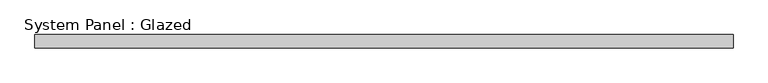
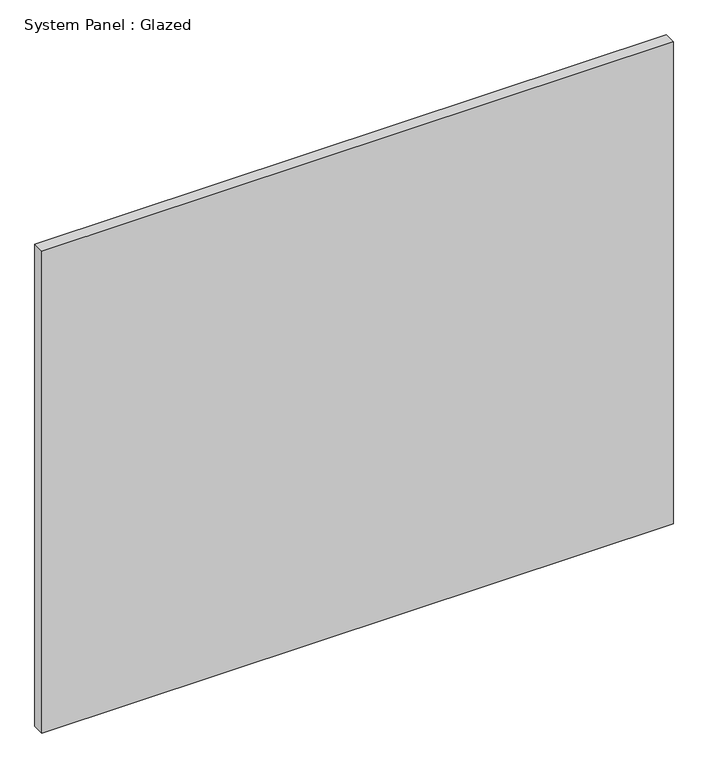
"""IFC4 building model written with IfcOpenShell, lengths in millimetres: plate geometry, System Panel : Glazed."""

from ifc_helpers import new_model, si_unit, origin, origin_with_axes, place, context, project, spatial, polyline, outline, extrude, source, transform, mapped, element, save


def system_panel_glazed_390bf5ad(model_context):
    return source(origin(), model_context, "Body", "SweptSolid", [
        extrude(outline(polyline([(643.7499999, 24.5), (-643.7499999, 24.5), (-643.7499999, 49.5), (643.7499999, 49.5), (643.7499999, 24.5)])), origin_with_axes(), (0.0, 0.0, 1.0), 1038.7564813),
    ])


if __name__ == "__main__":
    model = new_model("IFC4")
    model_context = context("Model", 3, world=origin())
    ifc_project = project(units=[si_unit("LENGTHUNIT", "METRE", prefix="MILLI")], contexts=[model_context])
    site = spatial("IfcSite", under=ifc_project)
    building = spatial("IfcBuilding", under=site)
    placement = place(None, origin())
    system_panel_glazed_shape = system_panel_glazed_390bf5ad(model_context)
    element("IfcPlate", 1, ObjectType="System Panel : Glazed", at=placement, inside=building, context=model_context, shape_type="MappedRepresentation", body=[
        mapped(system_panel_glazed_shape, transform((0.0, 0.0, 0.0), x_axis=(1.0, 0.0, 0.0), y_axis=(0.0, 1.0, 0.0), z_axis=(0.0, 0.0, 1.0))),
    ])
    save(model, "model.ifc")
